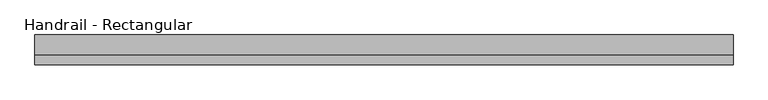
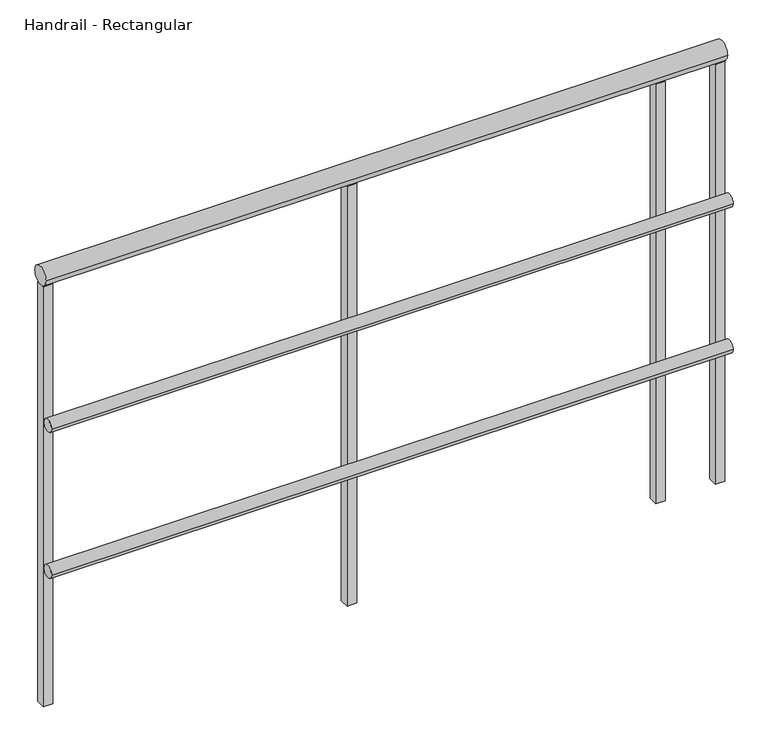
"""IFC4 building model written with IfcOpenShell, lengths in millimetres: railing geometry, Handrail - Rectangular."""

from ifc_helpers import new_model, si_unit, point, frame, frame_2d, origin, place, context, project, spatial, polyline, circle_curve, trimmed, segment, composite_curve, outline, extrude, source, transform, mapped, element, save


def handrail_rectangular_16bb1ca9(model_context):
    return source(origin(), model_context, "Body", "SweptSolid", [
        extrude(outline(composite_curve([segment(trimmed(circle_curve(frame_2d((-35578.5683133, 3644.9)), 12.7), [point((-35591.2683133, 3644.9))], [point((-35565.8683133, 3644.9))], False, "CARTESIAN"), True, "CONTINUOUS"), segment(trimmed(circle_curve(frame_2d((-35578.5683133, 3644.9)), 12.7), [point((-35565.8683133, 3644.9))], [point((-35591.2683133, 3644.9))], False, "CARTESIAN"), True, "CONTINUOUS")], self_intersect=False)), frame((-5665.7589563, 0.0, 0.0), z_axis=(1.0, 0.0, 0.0), x_axis=(0.0, 1.0, 0.0)), (0.0, 0.0, 1.0), 1346.2),
        extrude(outline(composite_curve([segment(trimmed(circle_curve(frame_2d((-35578.5683133, 3340.1)), 12.7), [point((-35591.2683133, 3340.1))], [point((-35565.8683133, 3340.1))], False, "CARTESIAN"), True, "CONTINUOUS"), segment(trimmed(circle_curve(frame_2d((-35578.5683133, 3340.1)), 12.7), [point((-35565.8683133, 3340.1))], [point((-35591.2683133, 3340.1))], False, "CARTESIAN"), True, "CONTINUOUS")], self_intersect=False)), frame((-5665.7589563, 0.0, 0.0), z_axis=(1.0, 0.0, 0.0), x_axis=(0.0, 1.0, 0.0)), (0.0, 0.0, 1.0), 1346.2),
        extrude(outline(composite_curve([segment(trimmed(circle_curve(frame_2d((-35553.1683133, 3943.35)), 19.05), [point((-35572.2183133, 3943.35))], [point((-35534.1183133, 3943.35))], False, "CARTESIAN"), True, "CONTINUOUS"), segment(trimmed(circle_curve(frame_2d((-35553.1683133, 3943.35)), 19.05), [point((-35534.1183133, 3943.35))], [point((-35572.2183133, 3943.35))], False, "CARTESIAN"), True, "CONTINUOUS")], self_intersect=False)), frame((-5665.7589563, 0.0, 0.0), z_axis=(1.0, 0.0, 0.0), x_axis=(0.0, 1.0, 0.0)), (0.0, 0.0, 1.0), 1346.2),
        extrude(outline(polyline([(-4456.0839563, -35543.6433133), (-4437.0339563, -35543.6433133), (-4437.0339563, -35562.6933133), (-4456.0839563, -35562.6933133), (-4456.0839563, -35543.6433133)])), frame((0.0, 0.0, 3048.0), z_axis=(0.0, 0.0, 1.0), x_axis=(1.0, 0.0, 0.0)), (0.0, 0.0, 1.0), 876.3),
        extrude(outline(polyline([(-5065.6839563, -35543.6433133), (-5046.6339563, -35543.6433133), (-5046.6339563, -35562.6933133), (-5065.6839563, -35562.6933133), (-5065.6839563, -35543.6433133)])), frame((0.0, 0.0, 3048.0), z_axis=(0.0, 0.0, 1.0), x_axis=(1.0, 0.0, 0.0)), (0.0, 0.0, 1.0), 876.3),
        extrude(outline(polyline([(-4338.6089563, -35543.6433133), (-4319.5589563, -35543.6433133), (-4319.5589563, -35562.6933133), (-4338.6089563, -35562.6933133), (-4338.6089563, -35543.6433133)])), frame((0.0, 0.0, 3048.0), z_axis=(0.0, 0.0, 1.0), x_axis=(1.0, 0.0, 0.0)), (0.0, 0.0, 1.0), 876.3),
        extrude(outline(polyline([(-5665.7589563, -35543.6433133), (-5646.7089563, -35543.6433133), (-5646.7089563, -35562.6933133), (-5665.7589563, -35562.6933133), (-5665.7589563, -35543.6433133)])), frame((0.0, 0.0, 3048.0), z_axis=(0.0, 0.0, 1.0), x_axis=(1.0, 0.0, 0.0)), (0.0, 0.0, 1.0), 876.3),
    ])


if __name__ == "__main__":
    model = new_model("IFC4")
    model_context = context("Model", 3, world=origin())
    ifc_project = project(units=[si_unit("LENGTHUNIT", "METRE", prefix="MILLI")], contexts=[model_context])
    site = spatial("IfcSite", under=ifc_project)
    building = spatial("IfcBuilding", under=site)
    placement = place(None, origin())
    handrail_rectangular_shape = handrail_rectangular_16bb1ca9(model_context)
    element("IfcRailing", 1, ObjectType="Handrail - Rectangular", at=placement, inside=building, context=model_context, shape_type="MappedRepresentation", body=[
        mapped(handrail_rectangular_shape, transform((0.0, 0.0, 0.0), x_axis=(1.0, 0.0, 0.0), y_axis=(0.0, 1.0, 0.0), z_axis=(0.0, 0.0, 1.0))),
    ])
    save(model, "model.ifc")
